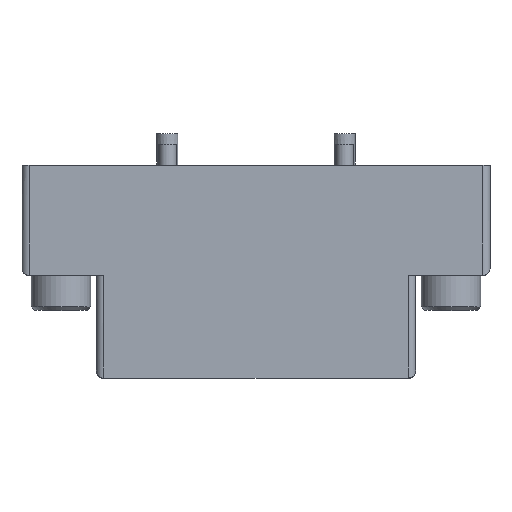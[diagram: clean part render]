
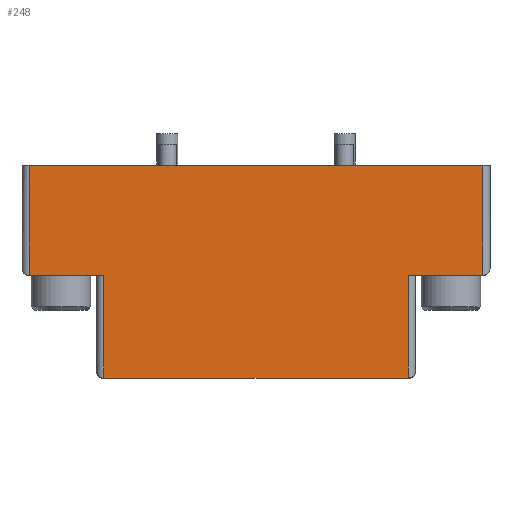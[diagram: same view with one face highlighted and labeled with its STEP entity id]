
A CAD part, top view. The second image highlights one B-rep face of the part: STEP entity #248.
In plain terms, the highlighted planar face has unit normal (0, 0, 1).
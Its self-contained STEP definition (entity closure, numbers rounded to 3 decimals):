
#248=ADVANCED_FACE('',(#628),#629,.F.);
#628=FACE_OUTER_BOUND('',#1195,.T.);
#629=PLANE('',#1196);
#1195=EDGE_LOOP('',(#1910,#1911,#1912,#1913,#1914,#1915,#1916,#1917));
#1196=AXIS2_PLACEMENT_3D('',#1918,#1919,#1920);
#1910=ORIENTED_EDGE('',*,*,#2801,.F.);
#1911=ORIENTED_EDGE('',*,*,#2924,.T.);
#1912=ORIENTED_EDGE('',*,*,#2888,.F.);
#1913=ORIENTED_EDGE('',*,*,#2925,.T.);
#1914=ORIENTED_EDGE('',*,*,#2926,.T.);
#1915=ORIENTED_EDGE('',*,*,#2927,.T.);
#1916=ORIENTED_EDGE('',*,*,#2928,.F.);
#1917=ORIENTED_EDGE('',*,*,#2929,.T.);
#1918=CARTESIAN_POINT('',(33.0,-30.0,15.0));
#1919=DIRECTION('',(0.0,0.0,-1.0));
#1920=DIRECTION('',(0.0,-1.0,0.0));
#2801=EDGE_CURVE('',#3230,#3231,#3232,.T.);
#2888=EDGE_CURVE('',#3372,#3374,#3375,.T.);
#2924=EDGE_CURVE('',#3230,#3374,#3427,.T.);
#2925=EDGE_CURVE('',#3372,#3428,#3429,.T.);
#2926=EDGE_CURVE('',#3428,#3430,#3431,.T.);
#2927=EDGE_CURVE('',#3430,#3432,#3433,.T.);
#2928=EDGE_CURVE('',#3434,#3432,#3435,.T.);
#2929=EDGE_CURVE('',#3434,#3231,#3436,.T.);
#3230=VERTEX_POINT('',#3933);
#3231=VERTEX_POINT('',#3934);
#3232=LINE('',#3935,#3936);
#3372=VERTEX_POINT('',#4128);
#3374=VERTEX_POINT('',#4131);
#3375=LINE('',#4132,#4133);
#3427=LINE('',#4202,#4203);
#3428=VERTEX_POINT('',#4204);
#3429=LINE('',#4205,#4206);
#3430=VERTEX_POINT('',#4207);
#3431=LINE('',#4208,#4209);
#3432=VERTEX_POINT('',#4210);
#3433=LINE('',#4211,#4212);
#3434=VERTEX_POINT('',#4213);
#3435=LINE('',#4214,#4215);
#3436=LINE('',#4216,#4217);
#3933=CARTESIAN_POINT('',(21.5,-30.0,15.0));
#3934=CARTESIAN_POINT('',(-21.5,-30.0,15.0));
#3935=CARTESIAN_POINT('',(33.0,-30.0,15.0));
#3936=VECTOR('',#4798,1.0);
#4128=CARTESIAN_POINT('',(32.0,-15.5,15.0));
#4131=CARTESIAN_POINT('',(21.5,-15.5,15.0));
#4132=CARTESIAN_POINT('',(33.0,-15.5,15.0));
#4133=VECTOR('',#4891,1.0);
#4202=CARTESIAN_POINT('',(21.5,-15.5,15.0));
#4203=VECTOR('',#4927,1.0);
#4204=CARTESIAN_POINT('',(32.0,0.,15.0));
#4205=CARTESIAN_POINT('',(32.0,-30.0,15.0));
#4206=VECTOR('',#4928,1.0);
#4207=CARTESIAN_POINT('',(-32.0,0.,15.0));
#4208=CARTESIAN_POINT('',(33.0,0.,15.0));
#4209=VECTOR('',#4929,1.0);
#4210=CARTESIAN_POINT('',(-32.0,-15.5,15.0));
#4211=CARTESIAN_POINT('',(-32.0,-30.0,15.0));
#4212=VECTOR('',#4930,1.0);
#4213=CARTESIAN_POINT('',(-21.5,-15.5,15.0));
#4214=CARTESIAN_POINT('',(-22.5,-15.5,15.0));
#4215=VECTOR('',#4931,1.0);
#4216=CARTESIAN_POINT('',(-21.5,-29.0,15.0));
#4217=VECTOR('',#4932,1.0);
#4798=DIRECTION('',(-1.0,0.0,0.0));
#4891=DIRECTION('',(-1.0,0.0,0.0));
#4927=DIRECTION('',(0.0,1.0,0.0));
#4928=DIRECTION('',(0.0,1.0,0.0));
#4929=DIRECTION('',(-1.0,0.0,0.0));
#4930=DIRECTION('',(0.0,-1.0,0.0));
#4931=DIRECTION('',(-1.0,0.0,0.0));
#4932=DIRECTION('',(0.0,-1.0,0.0));
